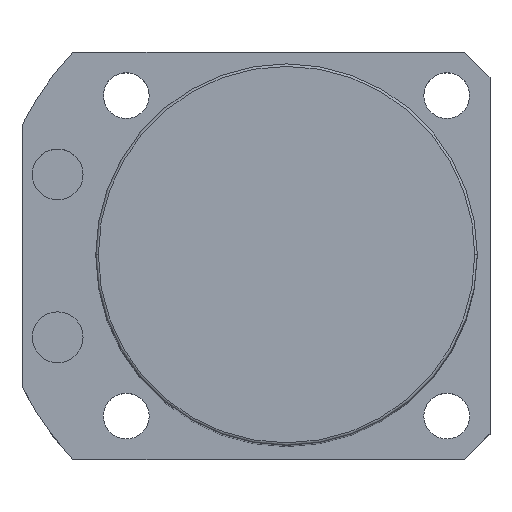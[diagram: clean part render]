
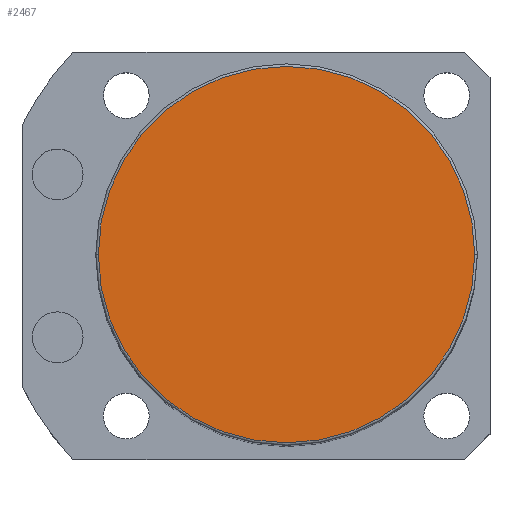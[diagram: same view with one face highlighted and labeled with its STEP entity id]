
A CAD part, top view. The second image highlights one B-rep face of the part: STEP entity #2467.
In plain terms, the highlighted planar face has unit normal (0, 0, 1).
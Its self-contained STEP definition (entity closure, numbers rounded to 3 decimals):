
#35 = ORIENTED_EDGE ( 'NONE', *, *, #2532, .T. ) ;
#100 = CARTESIAN_POINT ( 'NONE',  ( 0., 0., 160.5 ) ) ;
#131 = DIRECTION ( 'NONE',  ( 1., 0., 0. ) ) ;
#308 = PLANE ( 'NONE',  #1359 ) ;
#542 = EDGE_CURVE ( 'NONE', #1051, #1798, #990, .T. ) ;
#544 = DIRECTION ( 'NONE',  ( 0., 0., 1. ) ) ;
#952 = FACE_OUTER_BOUND ( 'NONE', #2503, .T. ) ;
#969 = CARTESIAN_POINT ( 'NONE',  ( 0., 0., 160.5 ) ) ;
#990 = CIRCLE ( 'NONE', #2009, 37. ) ;
#1051 = VERTEX_POINT ( 'NONE', #2461 ) ;
#1142 = DIRECTION ( 'NONE',  ( 1., 0., 0. ) ) ;
#1165 = CIRCLE ( 'NONE', #1498, 37. ) ;
#1260 = DIRECTION ( 'NONE',  ( 0., 0., 1. ) ) ;
#1277 = DIRECTION ( 'NONE',  ( 1., 0., 0. ) ) ;
#1359 = AXIS2_PLACEMENT_3D ( 'NONE', #1908, #544, #1142 ) ;
#1498 = AXIS2_PLACEMENT_3D ( 'NONE', #969, #1771, #131 ) ;
#1771 = DIRECTION ( 'NONE',  ( 0., 0., 1. ) ) ;
#1798 = VERTEX_POINT ( 'NONE', #1903 ) ;
#1903 = CARTESIAN_POINT ( 'NONE',  ( -37., 0., 160.5 ) ) ;
#1908 = CARTESIAN_POINT ( 'NONE',  ( 0., 0., 160.5 ) ) ;
#2009 = AXIS2_PLACEMENT_3D ( 'NONE', #100, #1260, #1277 ) ;
#2158 = ORIENTED_EDGE ( 'NONE', *, *, #542, .T. ) ;
#2461 = CARTESIAN_POINT ( 'NONE',  ( 37., 0., 160.5 ) ) ;
#2467 = ADVANCED_FACE ( 'NONE', ( #952 ), #308, .T. ) ;
#2503 = EDGE_LOOP ( 'NONE', ( #2158, #35 ) ) ;
#2532 = EDGE_CURVE ( 'NONE', #1798, #1051, #1165, .T. ) ;
